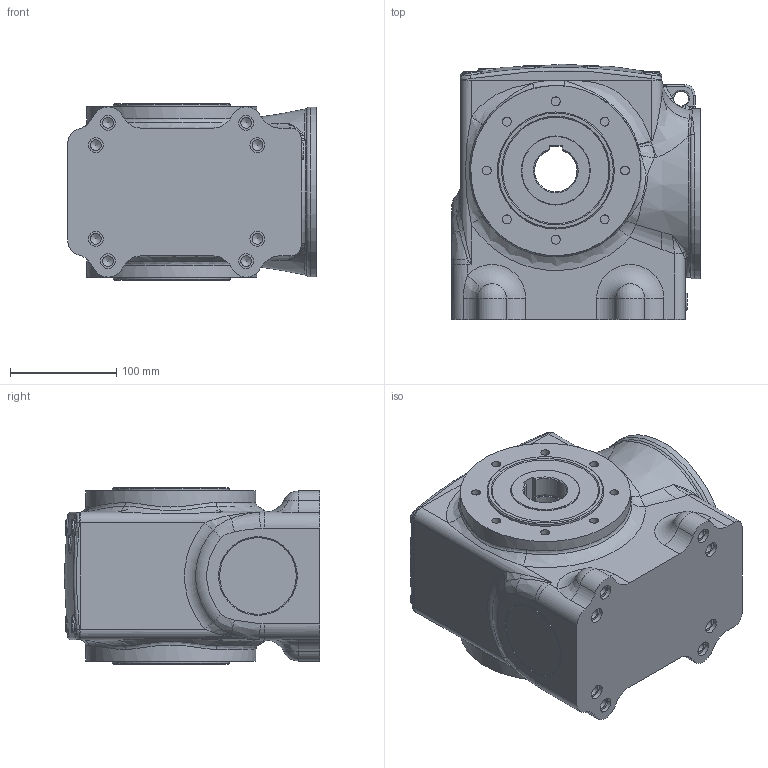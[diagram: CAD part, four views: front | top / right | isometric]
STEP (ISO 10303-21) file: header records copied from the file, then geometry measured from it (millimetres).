
FILE_DESCRIPTION(/* description */ (''),/* implementation_level */ '2;1');
FILE_NAME(/* name */ 'Z:\Dertec\RVS pakket tekeningen\Kasten\FSA + FS serie\FS\FS68\Step Customer\FS68 HA40 #.stp',/* time_stamp */ '2017-12-08T11:17:40+01:00',/* author */ ('Dertec'),/* organization */ (''),/* preprocessor_version */ 'ST-DEVELOPER v16.1',/* originating_system */ 'Autodesk Inventor 2016',/* authorisation */ '');
FILE_SCHEMA (('CONFIG_CONTROL_DESIGN','AUTOMOTIVE_DESIGN { 1 0 10303 214 3 1 1 }'));
Length unit declared in the file: inch
Products named in the file (1): Part38
Bounding box: 234 x 240 x 166 mm (x, y, z)
Volume: 6229283.5 mm3; surface area: 409432.3 mm2
Topology: 1 solids, 4 shells, 485 faces, 1109 edges, 682 vertices
Faces by surface type: cylinder 148, plane 128, bspline 123, cone 44, torus 36, sphere 6
Full cylindrical faces by diameter (mm): 4.134 x8, 5.5 x8, 6.647 x4, 8.376 x16, 8.917 x1, 10.106 x8, 11 x8, 14 x9, 64.9 x3, 65 x2, 66 x1, 72 x2, 74.3 x1, 100 x4, 103.5 x2, 110 x2, 116 x1, 119 x1, 160 x2
Entity records: 19952 total; most frequent: CARTESIAN_POINT 9974, ORIENTED_EDGE 1860, DIRECTION 1817, EDGE_CURVE 930, AXIS2_PLACEMENT_3D 809, EDGE_LOOP 673, VERTEX_POINT 633, FACE_OUTER_BOUND 485
